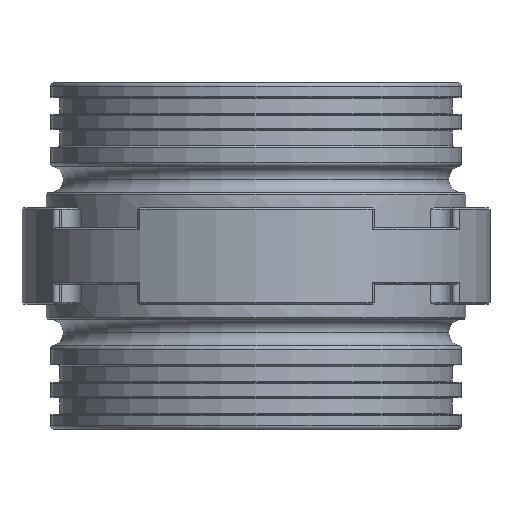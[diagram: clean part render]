
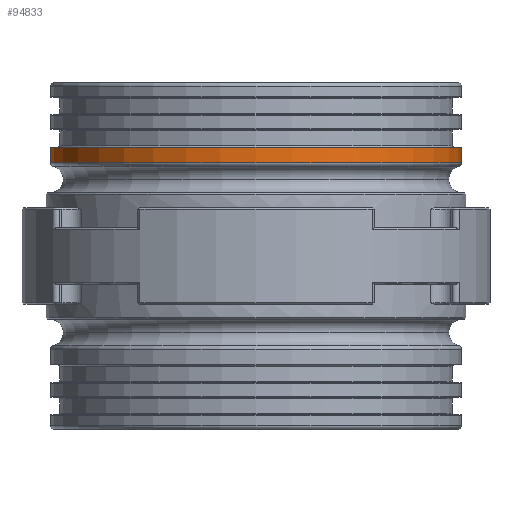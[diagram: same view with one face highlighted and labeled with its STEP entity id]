
A CAD part, front view. The second image highlights one B-rep face of the part: STEP entity #94833.
In plain terms, the highlighted cylindrical face has radius 25.465 mm (diameter 50.93 mm), a partial arc.
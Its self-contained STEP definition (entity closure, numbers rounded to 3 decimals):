
#696 = EDGE_LOOP ( 'NONE', ( #7005, #20071, #22154, #66246 ) ) ;
#7005 = ORIENTED_EDGE ( 'NONE', *, *, #112491, .F. ) ;
#8499 = VECTOR ( 'NONE', #101857, 1000. ) ;
#9534 = DIRECTION ( 'NONE',  ( -1., 0., 0. ) ) ;
#9876 = DIRECTION ( 'NONE',  ( -1., 0., 0. ) ) ;
#11287 = VERTEX_POINT ( 'NONE', #44828 ) ;
#19774 = DIRECTION ( 'NONE',  ( 0., 0., -1. ) ) ;
#20071 = ORIENTED_EDGE ( 'NONE', *, *, #87071, .T. ) ;
#22154 = ORIENTED_EDGE ( 'NONE', *, *, #39835, .F. ) ;
#22614 = DIRECTION ( 'NONE',  ( 0., 0., -1. ) ) ;
#30719 = DIRECTION ( 'NONE',  ( 0., 0., -1. ) ) ;
#32799 = LINE ( 'NONE', #67045, #8499 ) ;
#32851 = CARTESIAN_POINT ( 'NONE',  ( -25.465, 0., 43. ) ) ;
#36260 = AXIS2_PLACEMENT_3D ( 'NONE', #64956, #30719, #65517 ) ;
#39835 = EDGE_CURVE ( 'NONE', #57447, #11287, #85298, .T. ) ;
#44612 = CIRCLE ( 'NONE', #55545, 25.465 ) ;
#44828 = CARTESIAN_POINT ( 'NONE',  ( -25.465, 0., 33.076 ) ) ;
#53435 = CARTESIAN_POINT ( 'NONE',  ( 0., 0., 33.076 ) ) ;
#55545 = AXIS2_PLACEMENT_3D ( 'NONE', #77751, #79440, #9876 ) ;
#57447 = VERTEX_POINT ( 'NONE', #100237 ) ;
#58553 = LINE ( 'NONE', #32851, #77865 ) ;
#64956 = CARTESIAN_POINT ( 'NONE',  ( 0., 0., 43. ) ) ;
#65517 = DIRECTION ( 'NONE',  ( 1., 0., 0. ) ) ;
#66246 = ORIENTED_EDGE ( 'NONE', *, *, #84745, .F. ) ;
#67045 = CARTESIAN_POINT ( 'NONE',  ( 25.465, 0., 43. ) ) ;
#68713 = CARTESIAN_POINT ( 'NONE',  ( -25.465, 0., 34.95 ) ) ;
#72397 = VERTEX_POINT ( 'NONE', #94443 ) ;
#74065 = CYLINDRICAL_SURFACE ( 'NONE', #36260, 25.465 ) ;
#77751 = CARTESIAN_POINT ( 'NONE',  ( 0., 0., 34.95 ) ) ;
#77865 = VECTOR ( 'NONE', #22614, 1000. ) ;
#79440 = DIRECTION ( 'NONE',  ( 0., 0., 1. ) ) ;
#84684 = VERTEX_POINT ( 'NONE', #68713 ) ;
#84745 = EDGE_CURVE ( 'NONE', #72397, #57447, #32799, .T. ) ;
#85298 = CIRCLE ( 'NONE', #87079, 25.465 ) ;
#87071 = EDGE_CURVE ( 'NONE', #84684, #11287, #58553, .T. ) ;
#87079 = AXIS2_PLACEMENT_3D ( 'NONE', #53435, #19774, #9534 ) ;
#91773 = FACE_OUTER_BOUND ( 'NONE', #696, .T. ) ;
#94443 = CARTESIAN_POINT ( 'NONE',  ( 25.465, 0., 34.95 ) ) ;
#94833 = ADVANCED_FACE ( 'NONE', ( #91773 ), #74065, .T. ) ;
#100237 = CARTESIAN_POINT ( 'NONE',  ( 25.465, 0., 33.076 ) ) ;
#101857 = DIRECTION ( 'NONE',  ( 0., 0., -1. ) ) ;
#112491 = EDGE_CURVE ( 'NONE', #84684, #72397, #44612, .T. ) ;
